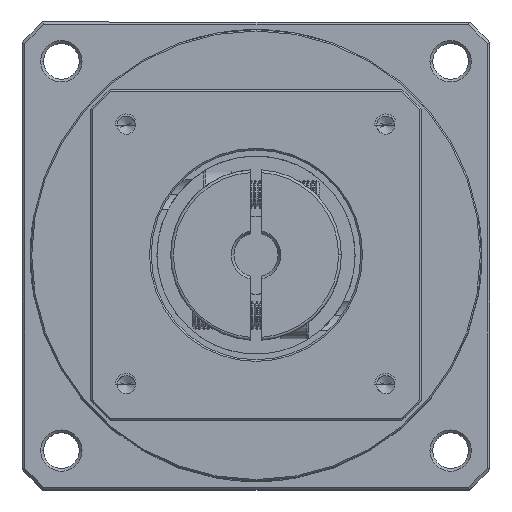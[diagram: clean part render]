
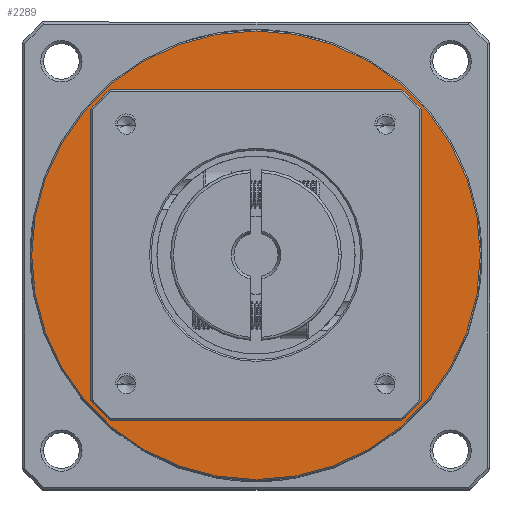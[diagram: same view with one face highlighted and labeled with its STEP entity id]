
A CAD part, top view. The second image highlights one B-rep face of the part: STEP entity #2289.
In plain terms, the highlighted planar face has unit normal (0, 0, 1).
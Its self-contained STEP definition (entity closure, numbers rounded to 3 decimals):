
#2076 = EDGE_LOOP ( 'NONE', ( #39858, #37390 ) ) ;
#2289 = ADVANCED_FACE ( 'NONE', ( #31684, #79779 ), #108406, .T. ) ;
#13732 = VERTEX_POINT ( 'NONE', #52585 ) ;
#15937 = DIRECTION ( 'NONE',  ( 0., 0., 1. ) ) ;
#21921 = CARTESIAN_POINT ( 'NONE',  ( -57.521, 55.182, -47.623 ) ) ;
#22218 = CIRCLE ( 'NONE', #61662, 40.75 ) ;
#22606 = VERTEX_POINT ( 'NONE', #81721 ) ;
#24845 = VERTEX_POINT ( 'NONE', #118968 ) ;
#26521 = CARTESIAN_POINT ( 'NONE',  ( -27.521, 55.182, -47.623 ) ) ;
#30203 = DIRECTION ( 'NONE',  ( 0., 0., 1. ) ) ;
#31433 = CARTESIAN_POINT ( 'NONE',  ( -57.521, 55.182, -47.623 ) ) ;
#31684 = FACE_BOUND ( 'NONE', #2076, .T. ) ;
#35103 = DIRECTION ( 'NONE',  ( 1., 0., 0. ) ) ;
#37390 = ORIENTED_EDGE ( 'NONE', *, *, #96582, .F. ) ;
#39858 = ORIENTED_EDGE ( 'NONE', *, *, #120051, .F. ) ;
#45750 = ORIENTED_EDGE ( 'NONE', *, *, #61183, .T. ) ;
#49146 = DIRECTION ( 'NONE',  ( 0., 0., 1. ) ) ;
#49996 = DIRECTION ( 'NONE',  ( 1., 0., 0. ) ) ;
#51953 = AXIS2_PLACEMENT_3D ( 'NONE', #31433, #60470, #70121 ) ;
#52585 = CARTESIAN_POINT ( 'NONE',  ( -16.771, 55.182, -47.623 ) ) ;
#60470 = DIRECTION ( 'NONE',  ( 0., 0., 1. ) ) ;
#61043 = CIRCLE ( 'NONE', #51953, 30. ) ;
#61183 = EDGE_CURVE ( 'NONE', #22606, #13732, #22218, .T. ) ;
#61662 = AXIS2_PLACEMENT_3D ( 'NONE', #111197, #15937, #35103 ) ;
#65243 = EDGE_CURVE ( 'NONE', #13732, #22606, #121418, .T. ) ;
#70121 = DIRECTION ( 'NONE',  ( 1., 0., 0. ) ) ;
#79779 = FACE_OUTER_BOUND ( 'NONE', #93712, .T. ) ;
#81721 = CARTESIAN_POINT ( 'NONE',  ( -98.271, 55.182, -47.623 ) ) ;
#83388 = CIRCLE ( 'NONE', #88365, 30. ) ;
#87913 = ORIENTED_EDGE ( 'NONE', *, *, #65243, .T. ) ;
#88121 = CARTESIAN_POINT ( 'NONE',  ( -57.521, 55.182, -47.623 ) ) ;
#88365 = AXIS2_PLACEMENT_3D ( 'NONE', #107546, #30203, #49996 ) ;
#93712 = EDGE_LOOP ( 'NONE', ( #45750, #87913 ) ) ;
#96582 = EDGE_CURVE ( 'NONE', #116182, #24845, #61043, .T. ) ;
#100094 = AXIS2_PLACEMENT_3D ( 'NONE', #88121, #49146, #108314 ) ;
#107546 = CARTESIAN_POINT ( 'NONE',  ( -57.521, 55.182, -47.623 ) ) ;
#108314 = DIRECTION ( 'NONE',  ( 1., 0., 0. ) ) ;
#108406 = PLANE ( 'NONE',  #110003 ) ;
#110003 = AXIS2_PLACEMENT_3D ( 'NONE', #21921, #116802, #118048 ) ;
#111197 = CARTESIAN_POINT ( 'NONE',  ( -57.521, 55.182, -47.623 ) ) ;
#116182 = VERTEX_POINT ( 'NONE', #26521 ) ;
#116802 = DIRECTION ( 'NONE',  ( 0., 0., 1. ) ) ;
#118048 = DIRECTION ( 'NONE',  ( 1., 0., 0. ) ) ;
#118968 = CARTESIAN_POINT ( 'NONE',  ( -87.521, 55.182, -47.623 ) ) ;
#120051 = EDGE_CURVE ( 'NONE', #24845, #116182, #83388, .T. ) ;
#121418 = CIRCLE ( 'NONE', #100094, 40.75 ) ;
